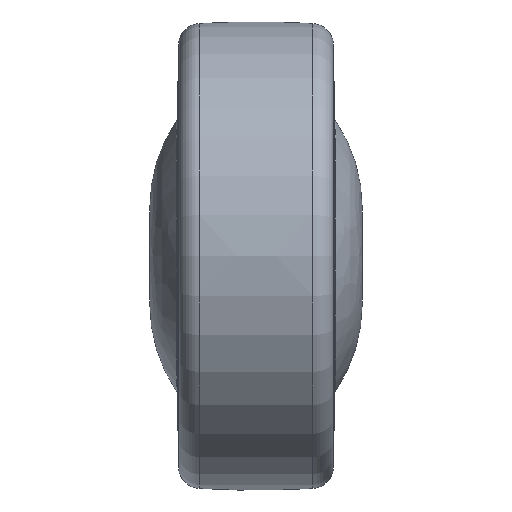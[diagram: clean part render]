
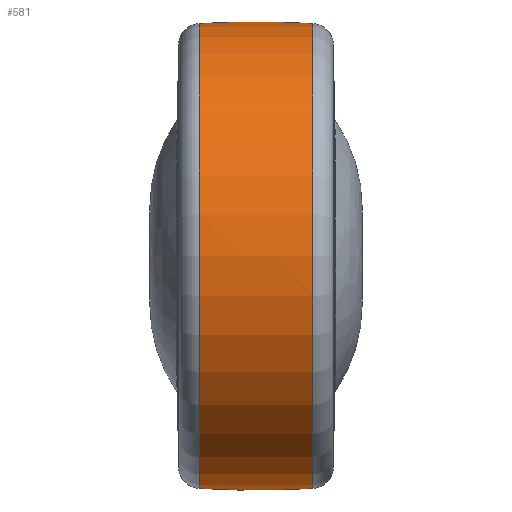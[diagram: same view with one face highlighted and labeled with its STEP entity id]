
A CAD part, top view. The second image highlights one B-rep face of the part: STEP entity #581.
In plain terms, the highlighted free-form (B-spline) face has degree [3, 3] with [7, 4] control points.
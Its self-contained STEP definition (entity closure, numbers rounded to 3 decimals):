
#302=CARTESIAN_POINT('',(0.,116.51,0.));
#303=DIRECTION('',(0.,0.,-1.));
#304=DIRECTION('',(0.059,-0.998,0.));
#305=AXIS2_PLACEMENT_3D('',#302,#303,#304);
#312=CARTESIAN_POINT('',(0.,-116.51,0.));
#313=DIRECTION('',(0.,0.,1.));
#314=DIRECTION('',(0.059,0.998,0.));
#315=AXIS2_PLACEMENT_3D('',#312,#313,#314);
#347=CARTESIAN_POINT('',(-9.107,0.,0.));
#348=DIRECTION('',(-1.,0.,0.));
#349=DIRECTION('',(0.,-1.,0.));
#350=AXIS2_PLACEMENT_3D('',#347,#348,#349);
#352=CARTESIAN_POINT('',(9.107,0.,0.));
#353=DIRECTION('',(-1.,0.,0.));
#354=DIRECTION('',(0.,-1.,0.));
#355=AXIS2_PLACEMENT_3D('',#352,#353,#354);
#366=CARTESIAN_POINT('',(-9.107,37.231,0.));
#367=CARTESIAN_POINT('',(-9.107,-37.231,0.));
#368=VERTEX_POINT('',#366);
#369=VERTEX_POINT('',#367);
#370=CARTESIAN_POINT('',(9.107,37.231,0.));
#371=CARTESIAN_POINT('',(9.107,-37.231,0.));
#372=VERTEX_POINT('',#370);
#373=VERTEX_POINT('',#371);
#545=CARTESIAN_POINT('',(-9.471,37.135,-2.336));
#546=CARTESIAN_POINT('',(-3.161,37.523,-2.361));
#547=CARTESIAN_POINT('',(3.161,37.523,-2.361));
#548=CARTESIAN_POINT('',(9.471,37.135,-2.336));
#549=CARTESIAN_POINT('',(-9.471,38.573,20.517));
#550=CARTESIAN_POINT('',(-3.161,38.976,20.731));
#551=CARTESIAN_POINT('',(3.161,38.976,20.731));
#552=CARTESIAN_POINT('',(9.471,38.573,20.517));
#553=CARTESIAN_POINT('',(-9.471,22.898,37.209));
#554=CARTESIAN_POINT('',(-3.161,23.137,37.597));
#555=CARTESIAN_POINT('',(3.161,23.137,37.597));
#556=CARTESIAN_POINT('',(9.471,22.898,37.209));
#557=CARTESIAN_POINT('',(-9.471,0.,37.209));
#558=CARTESIAN_POINT('',(-3.161,0.,37.597));
#559=CARTESIAN_POINT('',(3.161,0.,37.597));
#560=CARTESIAN_POINT('',(9.471,0.,37.209));
#561=CARTESIAN_POINT('',(-9.471,-22.898,37.209));
#562=CARTESIAN_POINT('',(-3.161,-23.137,37.597));
#563=CARTESIAN_POINT('',(3.161,-23.137,37.597));
#564=CARTESIAN_POINT('',(9.471,-22.898,37.209));
#565=CARTESIAN_POINT('',(-9.471,-38.573,20.517));
#566=CARTESIAN_POINT('',(-3.161,-38.976,20.731));
#567=CARTESIAN_POINT('',(3.161,-38.976,20.731));
#568=CARTESIAN_POINT('',(9.471,-38.573,20.517));
#569=CARTESIAN_POINT('',(-9.471,-37.135,
-2.336));
#570=CARTESIAN_POINT('',(-3.161,-37.523,
-2.361));
#571=CARTESIAN_POINT('',(3.161,-37.523,-2.361));
#572=CARTESIAN_POINT('',(9.471,-37.135,-2.336));
#573=(BOUNDED_SURFACE()B_SPLINE_SURFACE(3,3,((#545,#546,#547,#548),(#549,#550,
#551,#552),(#553,#554,#555,#556),(#557,#558,#559,#560),(#561,#562,#563,#564),(
#565,#566,#567,#568),(#569,#570,#571,#572)),.UNSPECIFIED.,.F.,.F.,.F.)B_SPLINE_SURFACE_WITH_KNOTS((4,3,4),(4,4),(0.,1.,2.),(0.,1.),.UNSPECIFIED.)GEOMETRIC_REPRESENTATION_ITEM()RATIONAL_B_SPLINE_SURFACE(((1.188,
1.187,1.187,1.188),(0.938,
0.937,0.937,0.938),(0.938,
0.937,0.937,0.938),(1.188,
1.187,1.187,1.188),(0.938,
0.937,0.937,0.938),(0.938,
0.937,0.937,0.938),(1.188,
1.187,1.187,1.188)))REPRESENTATION_ITEM('')SURFACE());
#574=ORIENTED_EDGE('',*,*,#532,.T.);
#575=ORIENTED_EDGE('',*,*,#467,.F.);
#577=ORIENTED_EDGE('',*,*,#576,.F.);
#578=ORIENTED_EDGE('',*,*,#464,.T.);
#579=EDGE_LOOP('',(#574,#575,#577,#578));
#580=FACE_OUTER_BOUND('',#579,.F.);
#306=CIRCLE('',#305,154.01);
#316=CIRCLE('',#315,154.01);
#351=CIRCLE('',#350,37.231);
#356=CIRCLE('',#355,37.231);
#464=EDGE_CURVE('',#373,#369,#306,.T.);
#467=EDGE_CURVE('',#372,#368,#316,.T.);
#532=EDGE_CURVE('',#369,#368,#351,.T.);
#576=EDGE_CURVE('',#373,#372,#356,.T.);
#581=ADVANCED_FACE('',(#580),#573,.T.);
